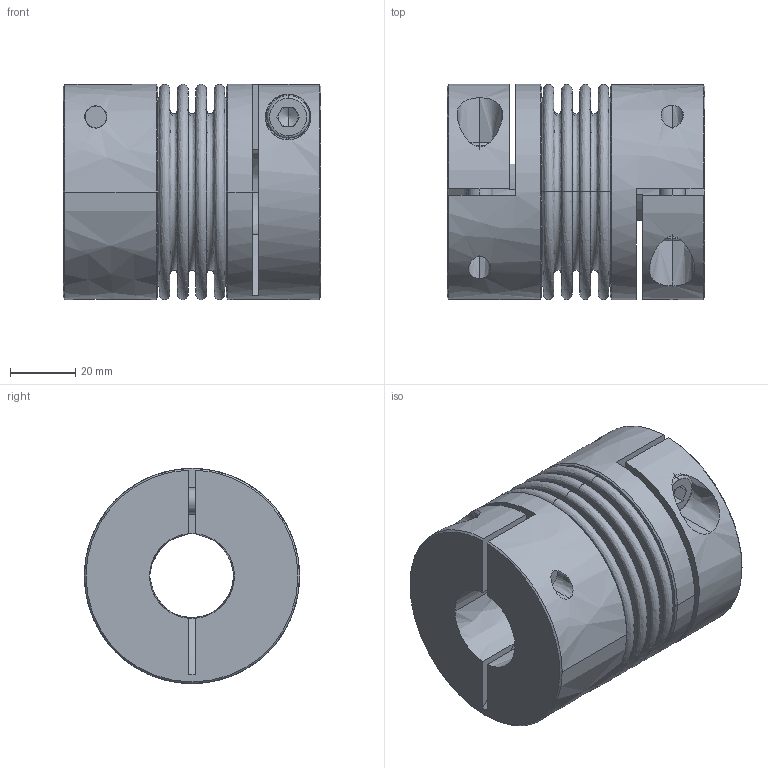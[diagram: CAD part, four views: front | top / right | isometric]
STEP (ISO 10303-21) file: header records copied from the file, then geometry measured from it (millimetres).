
FILE_DESCRIPTION((''),'2;1');
FILE_NAME('MBC_J_60NM_26MM','2021-12-03T',('TMarzahn'),(''),'CREO PARAMETRIC BY PTC INC, 2018220','CREO PARAMETRIC BY PTC INC, 2018220','');
FILE_SCHEMA(('CONFIG_CONTROL_DESIGN'));
Length unit declared in the file: millimetre
Products named in the file (1): MBC_J_60NM_26MM
Bounding box: 79 x 66 x 66 mm (x, y, z)
Volume: 163249.6 mm3; surface area: 64226 mm2
Topology: 1 solids, 1 shells, 158 faces, 360 edges, 226 vertices
Faces by surface type: bspline 158
Entity records: 8578 total; most frequent: CARTESIAN_POINT 5258, ORIENTED_EDGE 712, DIRECTION 562, EDGE_CURVE 356, VERTEX_POINT 226, AXIS2_PLACEMENT_3D 220, CIRCLE 220, EDGE_LOOP 190
